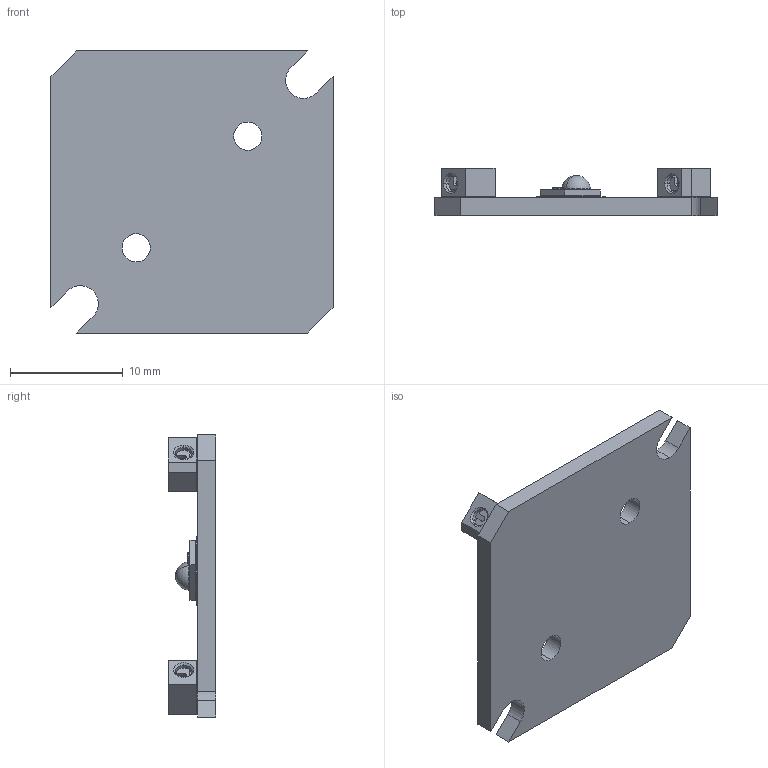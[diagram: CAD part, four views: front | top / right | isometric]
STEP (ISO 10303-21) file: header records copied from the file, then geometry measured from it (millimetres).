
FILE_DESCRIPTION (( 'STEP AP214' ), '1' );
FILE_NAME ('SW-12.STEP', '2023-11-14T03:39:56', ( '' ), ( '' ), 'SwSTEP 2.0', 'SolidWorks 2021', '' );
FILE_SCHEMA (( 'AUTOMOTIVE_DESIGN' ));
Length unit declared in the file: millimetre
Products named in the file (1): SW-12
Bounding box: 25 x 4.18 x 25 mm (x, y, z)
Volume: 987.7 mm3; surface area: 1626.4 mm2
Topology: 6 solids, 6 shells, 617 faces, 1638 edges, 1073 vertices
Faces by surface type: plane 413, cylinder 97, bspline 87, cone 8, torus 6, sphere 6
Entity records: 25973 total; most frequent: CARTESIAN_POINT 7792, ORIENTED_EDGE 3262, DIRECTION 2732, EDGE_CURVE 1631, LINE 1244, VECTOR 1244, VERTEX_POINT 1072, AXIS2_PLACEMENT_3D 744
